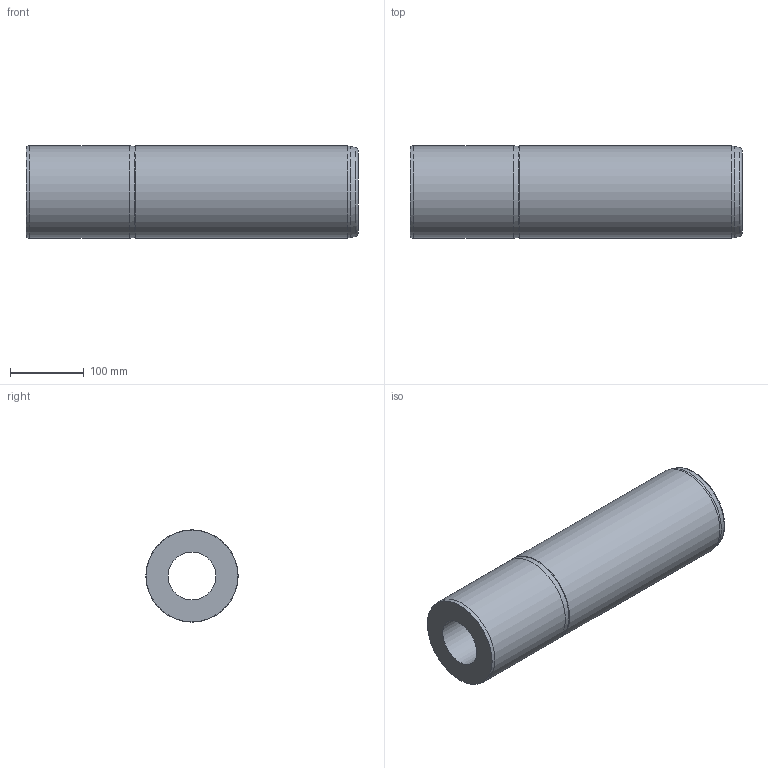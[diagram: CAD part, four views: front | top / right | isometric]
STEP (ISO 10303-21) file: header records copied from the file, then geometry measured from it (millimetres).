
FILE_DESCRIPTION(/* description */ ('Impex Ready, www.impex-ready.pl'),/* implementation_level */ '2;1');
FILE_NAME(/* name */ 'C:\Users\VIKKY\Nextcloud\SM\projekt 10 - części na stronę internetową\Pliki_3D_new\265 Słup C9F\265_C9F_STEP\C9F125450.ipt.step',/* time_stamp */ '2021-12-17T11:48:51+01:00',/* author */ ('SM'),/* organization */ (''),/* preprocessor_version */ 'ST-DEVELOPER v18.1',/* originating_system */ 'Autodesk Inventor 2021',/* authorisation */ '');
FILE_SCHEMA (('AUTOMOTIVE_DESIGN { 1 0 10303 214 3 1 1 }'));
Length unit declared in the file: millimetre
Products named in the file (1): C9F125450
Bounding box: 450 x 125 x 125 mm (x, y, z)
Volume: 4012964.5 mm3; surface area: 287062.8 mm2
Topology: 1 solids, 1 shells, 16 faces, 35 edges, 22 vertices
Faces by surface type: cone 6, cylinder 5, plane 3, torus 2
Full cylindrical faces by diameter (mm): 12 x2, 65 x1, 125 x2
Entity records: 527 total; most frequent: DIRECTION 89, CARTESIAN_POINT 72, ORIENTED_EDGE 66, AXIS2_PLACEMENT_3D 39, EDGE_CURVE 33, CIRCLE 22, VERTEX_POINT 22, EDGE_LOOP 21
